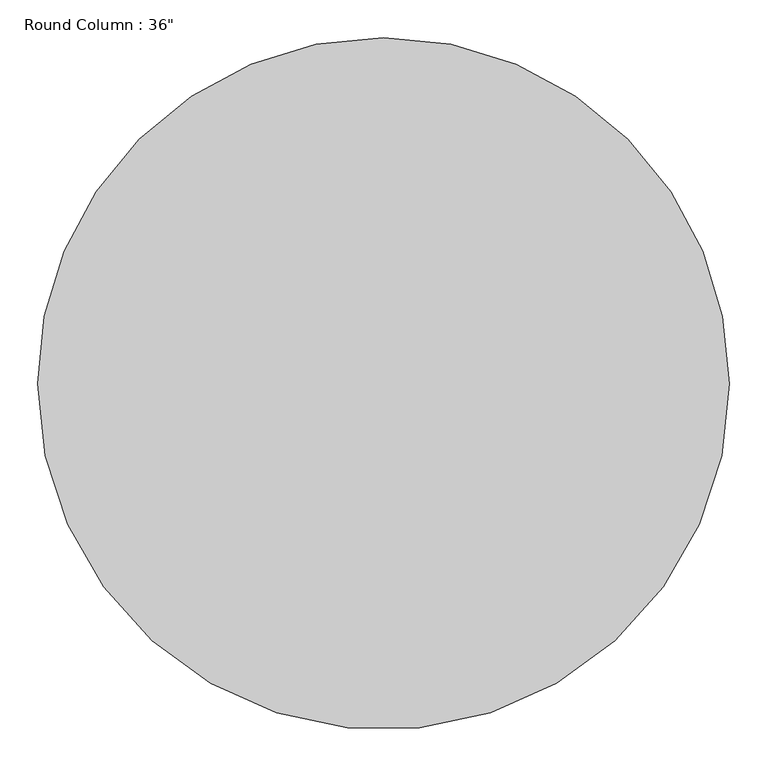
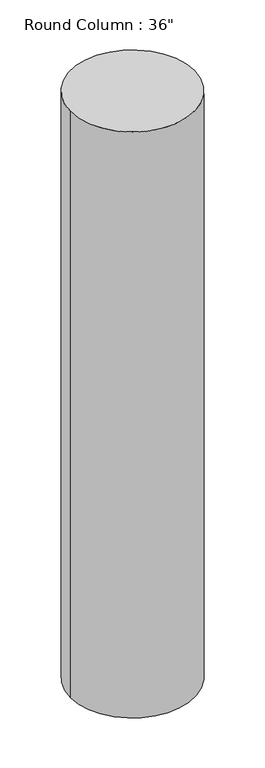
"""IFC4 building model written with IfcOpenShell, lengths in millimetres: column geometry."""

from ifc_helpers import new_model, si_unit, point, frame, origin, origin_2d, place, context, project, spatial, circle_curve, trimmed, segment, composite_curve, outline, extrude, source, transform, mapped, element, save


def column_a5302a6a(model_context):
    return source(origin(), model_context, "Body", "SweptSolid", [
        extrude(outline(composite_curve([segment(trimmed(circle_curve(origin_2d(), 457.2), [point((457.2, 0.0))], [point((-457.2, 0.0))], False, "CARTESIAN"), True, "CONTINUOUS"), segment(trimmed(circle_curve(origin_2d(), 457.2), [point((-457.2, 0.0))], [point((0.0, 457.2))], False, "CARTESIAN"), True, "CONTINUOUS"), segment(trimmed(circle_curve(origin_2d(), 457.2), [point((0.0, 457.2))], [point((457.2, 0.0))], False, "CARTESIAN"), True, "CONTINUOUS")], self_intersect=False)), frame((0.0, 0.0, 290080.7), z_axis=(0.0, 0.0, 1.0), x_axis=(1.0, 0.0, 0.0)), (0.0, 0.0, 1.0), 4572.0),
    ])


if __name__ == "__main__":
    model = new_model("IFC4")
    model_context = context("Model", 3, world=origin())
    ifc_project = project(units=[si_unit("LENGTHUNIT", "METRE", prefix="MILLI")], contexts=[model_context])
    site = spatial("IfcSite", under=ifc_project)
    building = spatial("IfcBuilding", under=site)
    placement = place(None, origin())
    column_shape = column_a5302a6a(model_context)
    element("IfcColumn", 1, ObjectType="Round Column : 36\"", at=placement, inside=building, context=model_context, shape_type="MappedRepresentation", body=[
        mapped(column_shape, transform((0.0, 0.0, 0.0), x_axis=(1.0, 0.0, 0.0), y_axis=(0.0, 1.0, 0.0), z_axis=(0.0, 0.0, 1.0))),
    ])
    save(model, "model.ifc")
